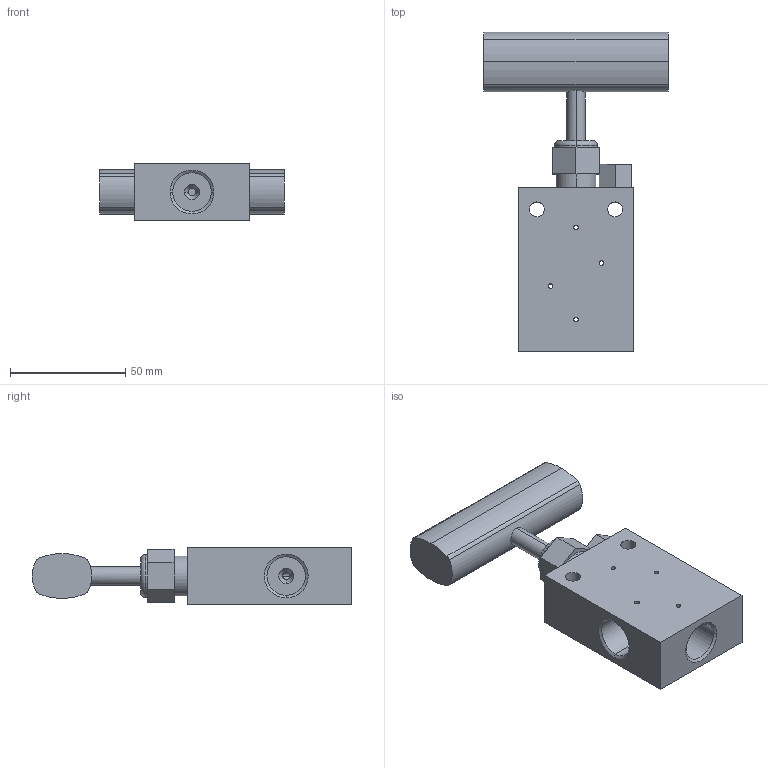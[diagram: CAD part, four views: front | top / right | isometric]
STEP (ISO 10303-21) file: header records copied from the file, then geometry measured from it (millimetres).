
FILE_DESCRIPTION (( 'STEP AP203' ), '1' );
FILE_NAME ('NV30VS06-T-00-00.STEP', '2023-02-27T06:26:24', ( 'USER' ), ( '' ), 'SwSTEP 2.0', 'SolidWorks 2020', '' );
FILE_SCHEMA (( 'CONFIG_CONTROL_DESIGN' ));
Length unit declared in the file: millimetre
Products named in the file (1): NV30VS06-T-00-00
Bounding box: 80 x 138.8 x 25 mm (x, y, z)
Volume: 119149.1 mm3; surface area: 26885.1 mm2
Topology: 1 solids, 1 shells, 103 faces, 259 edges, 162 vertices
Faces by surface type: cylinder 53, plane 30, cone 18, torus 2
Entity records: 3594 total; most frequent: CARTESIAN_POINT 965, DIRECTION 545, ORIENTED_EDGE 518, EDGE_CURVE 259, AXIS2_PLACEMENT_3D 208, VERTEX_POINT 162, EDGE_LOOP 133, VECTOR 129
